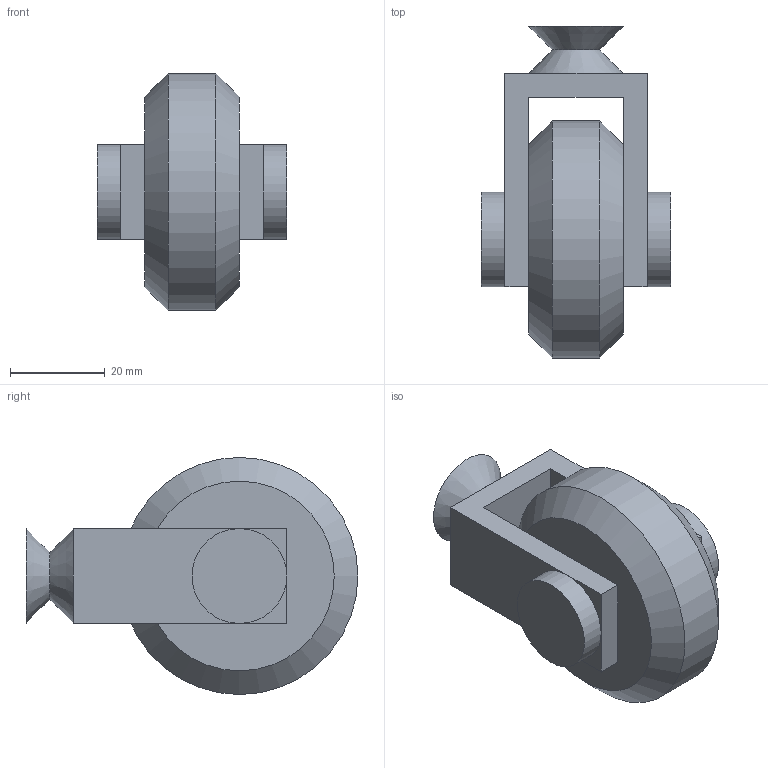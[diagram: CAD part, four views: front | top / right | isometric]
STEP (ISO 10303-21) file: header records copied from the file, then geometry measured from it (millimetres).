
FILE_DESCRIPTION(/* description */ (''),/* implementation_level */ '2;1');
FILE_NAME(/* name */ 'E:\OneDrive\School\Courses\Graphic Communication\Higher\Projects\Technical Graphics\Higher GC Technical Graphics\AS STEP\Section_5.stp',/* time_stamp */ '2020-12-07T16:35:42+00:00',/* author */ ('hunte'),/* organization */ (''),/* preprocessor_version */ 'ST-DEVELOPER v18.1',/* originating_system */ 'Autodesk Inventor 2020',/* authorisation */ '');
FILE_SCHEMA (('AUTOMOTIVE_DESIGN { 1 0 10303 214 3 1 1 }'));
Length unit declared in the file: millimetre
Products named in the file (4): ASSY_Section_5; PRT_Wheel_v1; PRT_Bracket_v1; PRT_Axle_v1
Assembly tree (3 placements, depth 2):
  ASSY_Section_5
    PRT_Wheel_v1
    PRT_Bracket_v1
    PRT_Axle_v1
Bounding box: 40 x 70 x 50 mm (x, y, z)
Volume: 51578.9 mm3; surface area: 15591.4 mm2
Topology: 3 solids, 3 shells, 29 faces, 70 edges, 49 vertices
Faces by surface type: plane 18, cylinder 7, cone 4
Full cylindrical faces by diameter (mm): 10 x4, 20 x2, 50 x1
Entity records: 1028 total; most frequent: DIRECTION 175, CARTESIAN_POINT 155, ORIENTED_EDGE 140, EDGE_CURVE 70, AXIS2_PLACEMENT_3D 69, VERTEX_POINT 49, EDGE_LOOP 37, LINE 37
